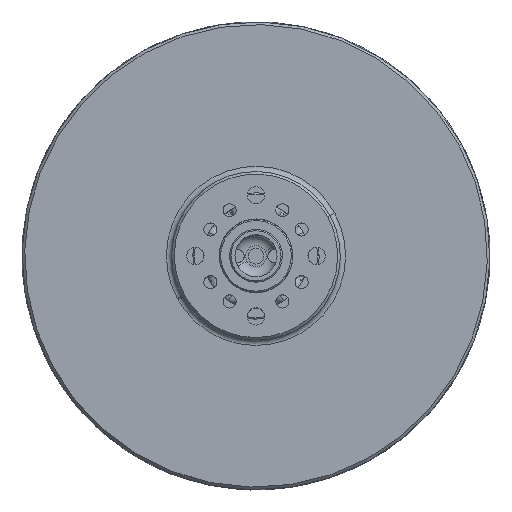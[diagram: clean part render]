
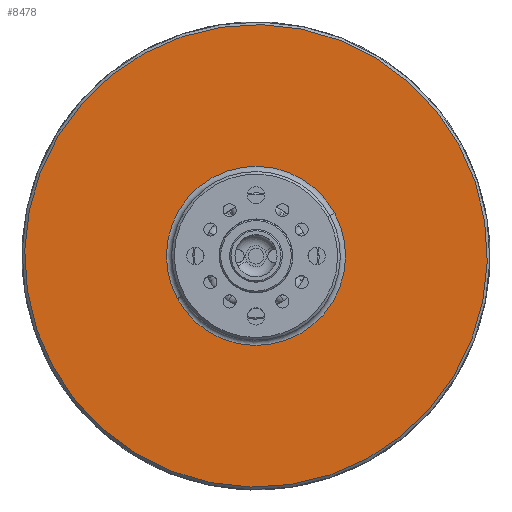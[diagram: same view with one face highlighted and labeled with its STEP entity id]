
A CAD part, top view. The second image highlights one B-rep face of the part: STEP entity #8478.
In plain terms, the highlighted planar face has unit normal (0, 0, 1).
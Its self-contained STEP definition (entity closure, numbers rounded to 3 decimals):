
#1411 = CARTESIAN_POINT ( 'NONE',  ( 0., 0., 8.25 ) ) ;
#3538 = PLANE ( 'NONE',  #52369 ) ;
#6981 = CARTESIAN_POINT ( 'NONE',  ( 38.526, 21.047, 8.25 ) ) ;
#7905 = VERTEX_POINT ( 'NONE', #55834 ) ;
#8478 = ADVANCED_FACE ( 'NONE', ( #105135, #65642 ), #3538, .T. ) ;
#9843 = CIRCLE ( 'NONE', #63104, 17. ) ;
#9957 = EDGE_CURVE ( 'NONE', #123395, #7905, #9843, .T. ) ;
#10909 = EDGE_CURVE ( 'NONE', #7905, #123395, #103463, .T. ) ;
#12309 = ORIENTED_EDGE ( 'NONE', *, *, #52968, .T. ) ;
#16386 = AXIS2_PLACEMENT_3D ( 'NONE', #28020, #38715, #110210 ) ;
#28020 = CARTESIAN_POINT ( 'NONE',  ( 0., 0., 8.25 ) ) ;
#30013 = CARTESIAN_POINT ( 'NONE',  ( -38.526, -21.047, 8.25 ) ) ;
#33916 = VERTEX_POINT ( 'NONE', #6981 ) ;
#38715 = DIRECTION ( 'NONE',  ( 0., 0., 1. ) ) ;
#47940 = AXIS2_PLACEMENT_3D ( 'NONE', #67033, #107841, #118523 ) ;
#52369 = AXIS2_PLACEMENT_3D ( 'NONE', #54334, #106459, #63035 ) ;
#52968 = EDGE_CURVE ( 'NONE', #123423, #33916, #75070, .T. ) ;
#53353 = CARTESIAN_POINT ( 'NONE',  ( 14.919, 8.15, 8.25 ) ) ;
#54334 = CARTESIAN_POINT ( 'NONE',  ( -17., 0., 8.25 ) ) ;
#55834 = CARTESIAN_POINT ( 'NONE',  ( -14.919, -8.15, 8.25 ) ) ;
#55872 = ORIENTED_EDGE ( 'NONE', *, *, #9957, .F. ) ;
#63035 = DIRECTION ( 'NONE',  ( 1., 0., 0. ) ) ;
#63104 = AXIS2_PLACEMENT_3D ( 'NONE', #129714, #129046, #127718 ) ;
#65642 = FACE_OUTER_BOUND ( 'NONE', #78072, .T. ) ;
#67033 = CARTESIAN_POINT ( 'NONE',  ( 0., 0., 8.25 ) ) ;
#73199 = ORIENTED_EDGE ( 'NONE', *, *, #10909, .F. ) ;
#75070 = CIRCLE ( 'NONE', #130590, 43.9 ) ;
#78072 = EDGE_LOOP ( 'NONE', ( #82613, #12309 ) ) ;
#82288 = DIRECTION ( 'NONE',  ( 1., 0., 0. ) ) ;
#82613 = ORIENTED_EDGE ( 'NONE', *, *, #99280, .T. ) ;
#88042 = EDGE_LOOP ( 'NONE', ( #73199, #55872 ) ) ;
#92968 = DIRECTION ( 'NONE',  ( 0., 0., 1. ) ) ;
#99280 = EDGE_CURVE ( 'NONE', #33916, #123423, #120943, .T. ) ;
#103463 = CIRCLE ( 'NONE', #47940, 17. ) ;
#105135 = FACE_BOUND ( 'NONE', #88042, .T. ) ;
#106459 = DIRECTION ( 'NONE',  ( 0., 0., 1. ) ) ;
#107841 = DIRECTION ( 'NONE',  ( 0., 0., 1. ) ) ;
#110210 = DIRECTION ( 'NONE',  ( 1., 0., 0. ) ) ;
#118523 = DIRECTION ( 'NONE',  ( 1., 0., 0. ) ) ;
#120943 = CIRCLE ( 'NONE', #16386, 43.9 ) ;
#123395 = VERTEX_POINT ( 'NONE', #53353 ) ;
#123423 = VERTEX_POINT ( 'NONE', #30013 ) ;
#127718 = DIRECTION ( 'NONE',  ( 1., 0., 0. ) ) ;
#129046 = DIRECTION ( 'NONE',  ( 0., 0., 1. ) ) ;
#129714 = CARTESIAN_POINT ( 'NONE',  ( 0., 0., 8.25 ) ) ;
#130590 = AXIS2_PLACEMENT_3D ( 'NONE', #1411, #92968, #82288 ) ;
